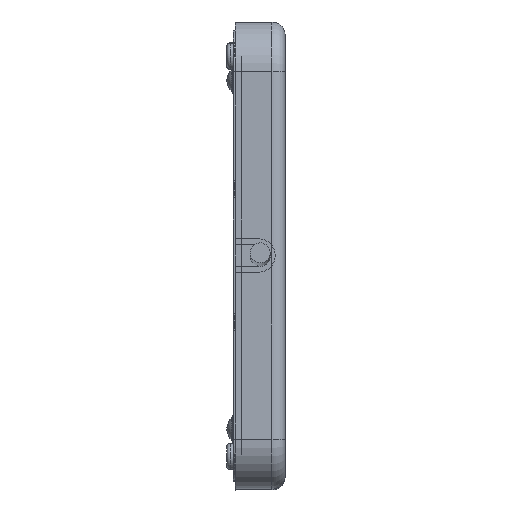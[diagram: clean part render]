
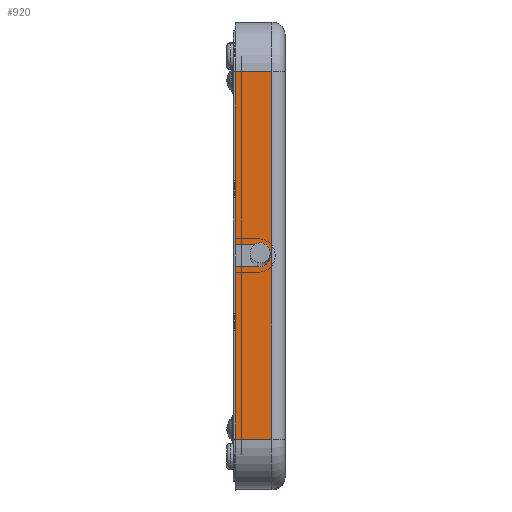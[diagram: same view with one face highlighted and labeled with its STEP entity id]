
A CAD part, top view. The second image highlights one B-rep face of the part: STEP entity #920.
In plain terms, the highlighted planar face has unit normal (0, 0, 1).
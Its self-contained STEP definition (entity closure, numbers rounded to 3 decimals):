
#258 = LINE ( 'NONE', #7609, #10712 ) ;
#498 = VERTEX_POINT ( 'NONE', #4957 ) ;
#568 = CARTESIAN_POINT ( 'NONE',  ( 36.589, 95.556, 215.71 ) ) ;
#920 = ADVANCED_FACE ( 'NONE', ( #3410 ), #17512, .T. ) ;
#1071 = DIRECTION ( 'NONE',  ( 0., 1., 0. ) ) ;
#1452 = VECTOR ( 'NONE', #14939, 1000. ) ;
#1657 = ORIENTED_EDGE ( 'NONE', *, *, #17117, .F. ) ;
#2151 = ORIENTED_EDGE ( 'NONE', *, *, #16690, .F. ) ;
#2189 = CARTESIAN_POINT ( 'NONE',  ( 29.489, 92.156, 215.71 ) ) ;
#2510 = DIRECTION ( 'NONE',  ( 0., 1., 0. ) ) ;
#2603 = CARTESIAN_POINT ( 'NONE',  ( 40.489, 40.556, 215.71 ) ) ;
#2654 = CIRCLE ( 'NONE', #4036, 3.4 ) ;
#2839 = CARTESIAN_POINT ( 'NONE',  ( 40.489, 40.556, 215.71 ) ) ;
#3187 = AXIS2_PLACEMENT_3D ( 'NONE', #7587, #16746, #15607 ) ;
#3248 = CARTESIAN_POINT ( 'NONE',  ( 40.489, 150.556, 215.71 ) ) ;
#3399 = VECTOR ( 'NONE', #13967, 1000. ) ;
#3410 = FACE_OUTER_BOUND ( 'NONE', #14113, .T. ) ;
#3754 = EDGE_CURVE ( 'NONE', #13130, #498, #2654, .T. ) ;
#4036 = AXIS2_PLACEMENT_3D ( 'NONE', #14519, #14459, #6519 ) ;
#4049 = LINE ( 'NONE', #2839, #3399 ) ;
#4325 = ORIENTED_EDGE ( 'NONE', *, *, #11501, .T. ) ;
#4408 = VERTEX_POINT ( 'NONE', #2603 ) ;
#4630 = CARTESIAN_POINT ( 'NONE',  ( 40.489, 150.556, 215.71 ) ) ;
#4766 = LINE ( 'NONE', #13265, #12446 ) ;
#4957 = CARTESIAN_POINT ( 'NONE',  ( 39.989, 95.556, 215.71 ) ) ;
#5757 = LINE ( 'NONE', #9359, #1452 ) ;
#5975 = ORIENTED_EDGE ( 'NONE', *, *, #8566, .F. ) ;
#6173 = VERTEX_POINT ( 'NONE', #2189 ) ;
#6261 = DIRECTION ( 'NONE',  ( 0., 0., 1. ) ) ;
#6519 = DIRECTION ( 'NONE',  ( 0., -1., 0. ) ) ;
#6877 = VERTEX_POINT ( 'NONE', #16738 ) ;
#7206 = LINE ( 'NONE', #3248, #12958 ) ;
#7290 = VECTOR ( 'NONE', #1071, 1000. ) ;
#7587 = CARTESIAN_POINT ( 'NONE',  ( 29.489, 165.556, 215.71 ) ) ;
#7608 = DIRECTION ( 'NONE',  ( 1., 0., 0. ) ) ;
#7609 = CARTESIAN_POINT ( 'NONE',  ( 29.489, 98.956, 215.71 ) ) ;
#7979 = EDGE_CURVE ( 'NONE', #498, #6877, #16239, .T. ) ;
#8566 = EDGE_CURVE ( 'NONE', #6173, #13130, #5757, .T. ) ;
#8752 = CARTESIAN_POINT ( 'NONE',  ( 29.489, 150.556, 215.71 ) ) ;
#9118 = ORIENTED_EDGE ( 'NONE', *, *, #7979, .F. ) ;
#9359 = CARTESIAN_POINT ( 'NONE',  ( 29.489, 92.156, 215.71 ) ) ;
#9594 = ORIENTED_EDGE ( 'NONE', *, *, #15078, .T. ) ;
#10046 = DIRECTION ( 'NONE',  ( -1., 0., 0. ) ) ;
#10096 = LINE ( 'NONE', #11436, #14596 ) ;
#10670 = ORIENTED_EDGE ( 'NONE', *, *, #12890, .T. ) ;
#10686 = AXIS2_PLACEMENT_3D ( 'NONE', #568, #6261, #12944 ) ;
#10712 = VECTOR ( 'NONE', #2510, 1000. ) ;
#10869 = CARTESIAN_POINT ( 'NONE',  ( 36.589, 92.156, 215.71 ) ) ;
#11307 = VERTEX_POINT ( 'NONE', #4630 ) ;
#11324 = VERTEX_POINT ( 'NONE', #11647 ) ;
#11436 = CARTESIAN_POINT ( 'NONE',  ( 29.489, 40.556, 215.71 ) ) ;
#11501 = EDGE_CURVE ( 'NONE', #13563, #6877, #4766, .T. ) ;
#11647 = CARTESIAN_POINT ( 'NONE',  ( 29.489, 40.556, 215.71 ) ) ;
#12446 = VECTOR ( 'NONE', #7608, 1000. ) ;
#12890 = EDGE_CURVE ( 'NONE', #4408, #11307, #17308, .T. ) ;
#12944 = DIRECTION ( 'NONE',  ( 0., -1., 0. ) ) ;
#12958 = VECTOR ( 'NONE', #10046, 1000. ) ;
#13130 = VERTEX_POINT ( 'NONE', #10869 ) ;
#13265 = CARTESIAN_POINT ( 'NONE',  ( 29.489, 98.956, 215.71 ) ) ;
#13563 = VERTEX_POINT ( 'NONE', #15942 ) ;
#13691 = EDGE_CURVE ( 'NONE', #4408, #11324, #4049, .T. ) ;
#13967 = DIRECTION ( 'NONE',  ( -1., 0., 0. ) ) ;
#14113 = EDGE_LOOP ( 'NONE', ( #2151, #16924, #10670, #9594, #1657, #4325, #9118, #17498, #5975 ) ) ;
#14459 = DIRECTION ( 'NONE',  ( 0., 0., 1. ) ) ;
#14519 = CARTESIAN_POINT ( 'NONE',  ( 36.589, 95.556, 215.71 ) ) ;
#14596 = VECTOR ( 'NONE', #16773, 1000. ) ;
#14939 = DIRECTION ( 'NONE',  ( 1., 0., 0. ) ) ;
#15078 = EDGE_CURVE ( 'NONE', #11307, #15185, #7206, .T. ) ;
#15185 = VERTEX_POINT ( 'NONE', #8752 ) ;
#15607 = DIRECTION ( 'NONE',  ( 1., 0., 0. ) ) ;
#15942 = CARTESIAN_POINT ( 'NONE',  ( 29.489, 98.956, 215.71 ) ) ;
#16239 = CIRCLE ( 'NONE', #10686, 3.4 ) ;
#16330 = CARTESIAN_POINT ( 'NONE',  ( 40.489, 40.556, 215.71 ) ) ;
#16690 = EDGE_CURVE ( 'NONE', #11324, #6173, #10096, .T. ) ;
#16738 = CARTESIAN_POINT ( 'NONE',  ( 36.589, 98.956, 215.71 ) ) ;
#16746 = DIRECTION ( 'NONE',  ( 0., 0., 1. ) ) ;
#16773 = DIRECTION ( 'NONE',  ( 0., 1., 0. ) ) ;
#16924 = ORIENTED_EDGE ( 'NONE', *, *, #13691, .F. ) ;
#17117 = EDGE_CURVE ( 'NONE', #13563, #15185, #258, .T. ) ;
#17308 = LINE ( 'NONE', #16330, #7290 ) ;
#17498 = ORIENTED_EDGE ( 'NONE', *, *, #3754, .F. ) ;
#17512 = PLANE ( 'NONE',  #3187 ) ;
